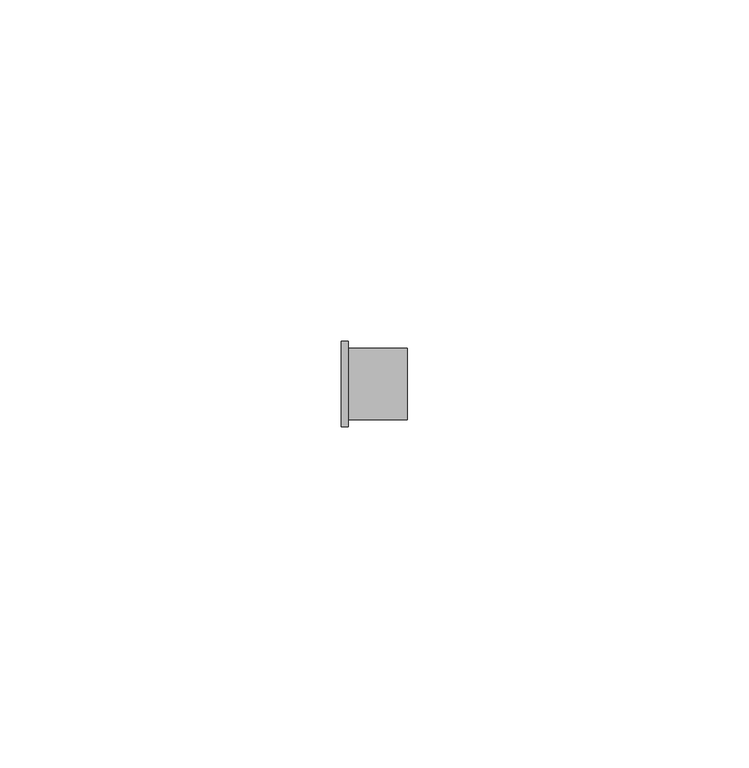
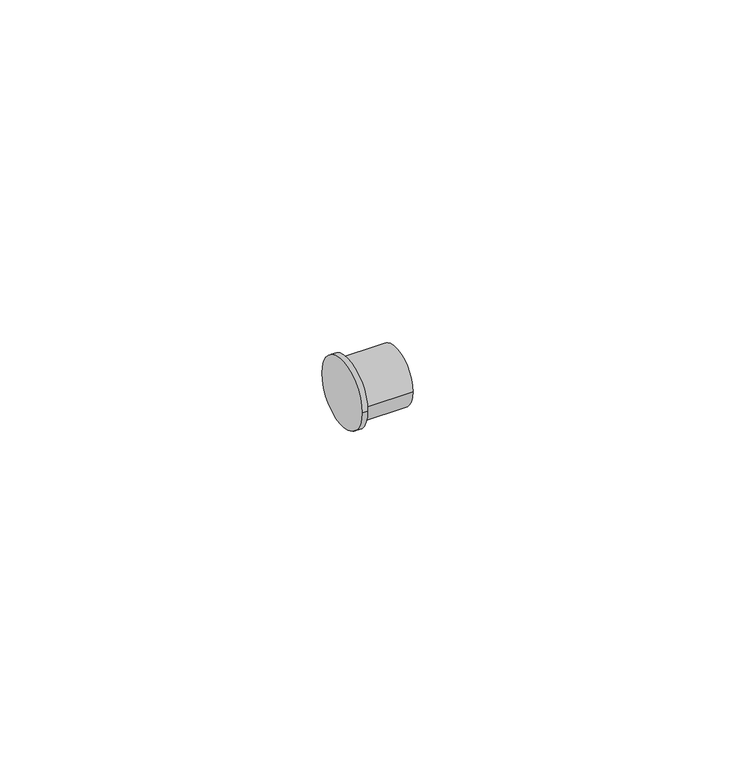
"""IFC4 building model written with IfcOpenShell, lengths in millimetres: pipe fitting geometry, Bucha de redução reta - Soldada - CU : Padrão."""

from ifc_helpers import new_model, si_unit, frame, origin, place, context, project, spatial, circle_curve, source, transform, mapped, element, save
from ifc_brep_helpers import plane_surface, cylinder_surface, advanced_brep


def pipe_fitting_5a6d96d3(model_context):
    return source(origin(), model_context, "Body", "AdvancedBrep", [
        advanced_brep(
        [(0.0, -6.25, 0.0), (0.0, 6.25, 0.0), (1.0, -6.25, 0.0), (1.0, 6.25, 0.0), (1.0, -5.2552, 0.0), (1.0, 5.2552, 0.0), (9.6744, -5.2552, 0.0), (9.6744, 5.2552, 0.0)],
        [
            (0, 1, circle_curve(frame((0.0, 0.0, 0.0), z_axis=(-1.0, 0.0, 0.0), x_axis=(0.0, 1.0, 0.0)), 6.25)),
            (1, 0, circle_curve(frame((0.0, 0.0, 0.0), z_axis=(-1.0, 0.0, 0.0), x_axis=(0.0, 1.0, 0.0)), 6.25)),
            (2, 3, circle_curve(frame((1.0, 0.0, 0.0), z_axis=(1.0, 0.0, 0.0), x_axis=(0.0, 1.0, 0.0)), 6.25)),
            (3, 2, circle_curve(frame((1.0, 0.0, 0.0), z_axis=(1.0, 0.0, 0.0), x_axis=(0.0, 1.0, 0.0)), 6.25)),
            (4, 5, circle_curve(frame((1.0, 0.0, 0.0), z_axis=(-1.0, 0.0, 0.0), x_axis=(0.0, 1.0, 0.0)), 5.2552)),
            (5, 4, circle_curve(frame((1.0, 0.0, 0.0), z_axis=(-1.0, 0.0, 0.0), x_axis=(0.0, 1.0, 0.0)), 5.2552)),
            (0, 2),
            (3, 1),
            (6, 7, circle_curve(frame((9.6744, 0.0, 0.0), z_axis=(1.0, 0.0, 0.0), x_axis=(0.0, 1.0, 0.0)), 5.2552)),
            (7, 6, circle_curve(frame((9.6744, 0.0, 0.0), z_axis=(1.0, 0.0, 0.0), x_axis=(0.0, 1.0, 0.0)), 5.2552)),
            (7, 5),
            (4, 6),
        ],
        [
            plane_surface(frame((0.0, 0.0, 0.0), z_axis=(-1.0, 0.0, 0.0), x_axis=(0.0, 0.0, 1.0))),
            plane_surface(frame((1.0, 0.0, 0.0), z_axis=(1.0, 0.0, 0.0), x_axis=(0.0, 0.0, 1.0))),
            cylinder_surface(frame((0.0, 0.0, 0.0), z_axis=(-1.0, 0.0, 0.0), x_axis=(0.0, 1.0, 0.0)), 6.25),
            plane_surface(frame((9.6744, 0.0, 0.0), z_axis=(1.0, 0.0, 0.0), x_axis=(0.0, 0.0, 1.0))),
            cylinder_surface(frame((1.0, 0.0, 0.0), z_axis=(-1.0, 0.0, 0.0), x_axis=(0.0, 1.0, 0.0)), 5.2552),
        ],
        [
            (0, [[1, 2]]),
            (1, [[3, 4], [5, 6]]),
            (2, [[-1, 7, -4, 8]]),
            (2, [[-2, -8, -3, -7]]),
            (3, [[9, 10]]),
            (4, [[-10, 11, -5, 12]]),
            (4, [[-9, -12, -6, -11]]),
        ],
    ),
    ])


if __name__ == "__main__":
    model = new_model("IFC4")
    model_context = context("Model", 3, world=origin())
    ifc_project = project(units=[si_unit("LENGTHUNIT", "METRE", prefix="MILLI")], contexts=[model_context])
    site = spatial("IfcSite", under=ifc_project)
    building = spatial("IfcBuilding", under=site)
    placement = place(None, origin())
    pipe_fitting_shape = pipe_fitting_5a6d96d3(model_context)
    element("IfcPipeFitting", 1, ObjectType="Bucha de redução reta - Soldada - CU : Padrão", at=placement, inside=building, context=model_context, shape_type="MappedRepresentation", body=[
        mapped(pipe_fitting_shape, transform((0.0, 0.0, 0.0), x_axis=(1.0, 0.0, 0.0), y_axis=(0.0, 1.0, 0.0), z_axis=(0.0, 0.0, 1.0))),
    ])
    save(model, "model.ifc")
